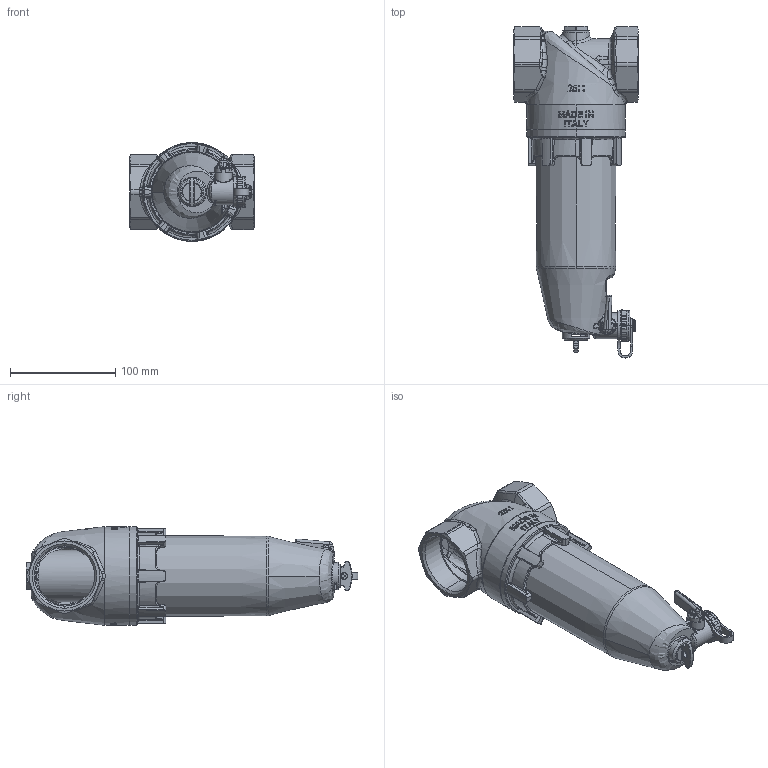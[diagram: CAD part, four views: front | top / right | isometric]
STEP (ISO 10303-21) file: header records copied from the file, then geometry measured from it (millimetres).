
FILE_DESCRIPTION (( 'STEP AP214' ), '1' );
FILE_NAME ('ADS183_Magnetyczny_separator_zanieczyszczen_7718200_0_3D_AFRISO.STEP', '2026-04-02T09:14:35', ( '' ), ( '' ), 'SwSTEP 2.0', 'SolidWorks 2024', '' );
FILE_SCHEMA (( 'AUTOMOTIVE_DESIGN' ));
Length unit declared in the file: millimetre
Products named in the file (1): ADS183_Magnetyczny_separator_zanieczyszczen_7718200_0_3D_AFRISO
Bounding box: 118 x 314.7 x 93.5 mm (x, y, z)
Surface area: 185946 mm2 (no closed solid volume)
Topology: 0 solids, 14 shells, 1103 faces, 6848 edges, 5594 vertices
Faces by surface type: bspline 536, cylinder 252, plane 243, cone 72
Entity records: 134431 total; most frequent: CARTESIAN_POINT 83431, ORIENTED_EDGE 9300, EDGE_CURVE 6835, VERTEX_POINT 5594, B_SPLINE_CURVE_WITH_KNOTS 4689, DIRECTION 4146, EDGE_LOOP 1866, AXIS2_PLACEMENT_3D 1489
